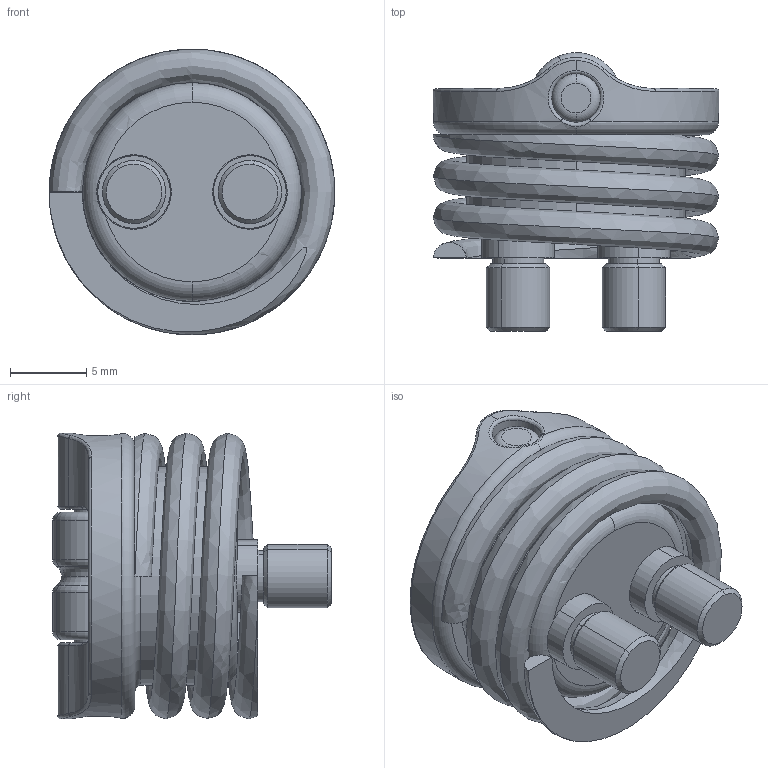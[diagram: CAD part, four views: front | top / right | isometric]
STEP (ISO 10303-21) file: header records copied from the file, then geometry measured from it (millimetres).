
FILE_DESCRIPTION (( 'STEP AP203' ), '1' );
FILE_NAME ('SRTM-13.STEP', '2012-09-12T23:10:52', ( '' ), ( '' ), 'SwSTEP 2.0', 'SolidWorks 2010', '' );
FILE_SCHEMA (( 'CONFIG_CONTROL_DESIGN' ));
Length unit declared in the file: millimetre
Products named in the file (6): SRTM-13_AXLE; SRTM-13 ROLLER; SRTM-13_SHSB; SRTM-13_Spring; SRTM-13; SRTM-13_Retainer
Assembly tree (6 placements, depth 2):
  SRTM-13
    SRTM-13_Retainer
    SRTM-13 ROLLER
    SRTM-13_SHSB  x2
    SRTM-13_AXLE
    SRTM-13_Spring
Bounding box: 18.8 x 18.32 x 18.8 mm (x, y, z)
Volume: 2372 mm3; surface area: 3393.2 mm2
Topology: 6 solids, 6 shells, 172 faces, 386 edges, 234 vertices
Faces by surface type: cylinder 58, plane 47, torus 37, bspline 16, cone 14
Entity records: 6472 total; most frequent: CARTESIAN_POINT 2594, DIRECTION 735, ORIENTED_EDGE 652, EDGE_CURVE 326, AXIS2_PLACEMENT_3D 322, VERTEX_POINT 196, CIRCLE 186, EDGE_LOOP 156
